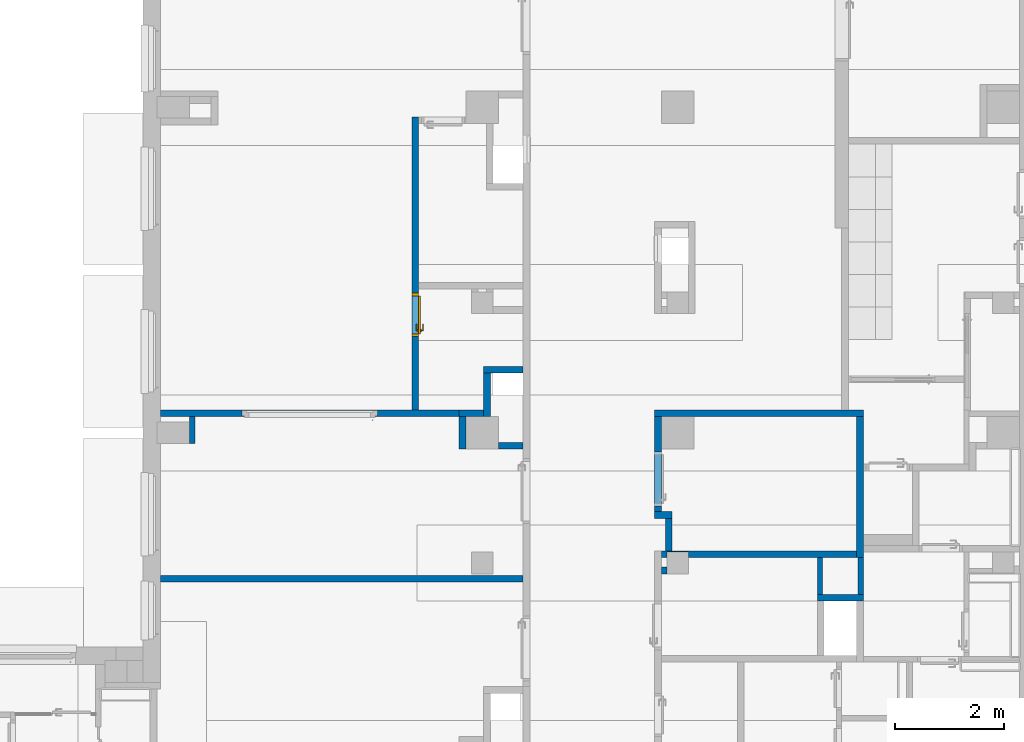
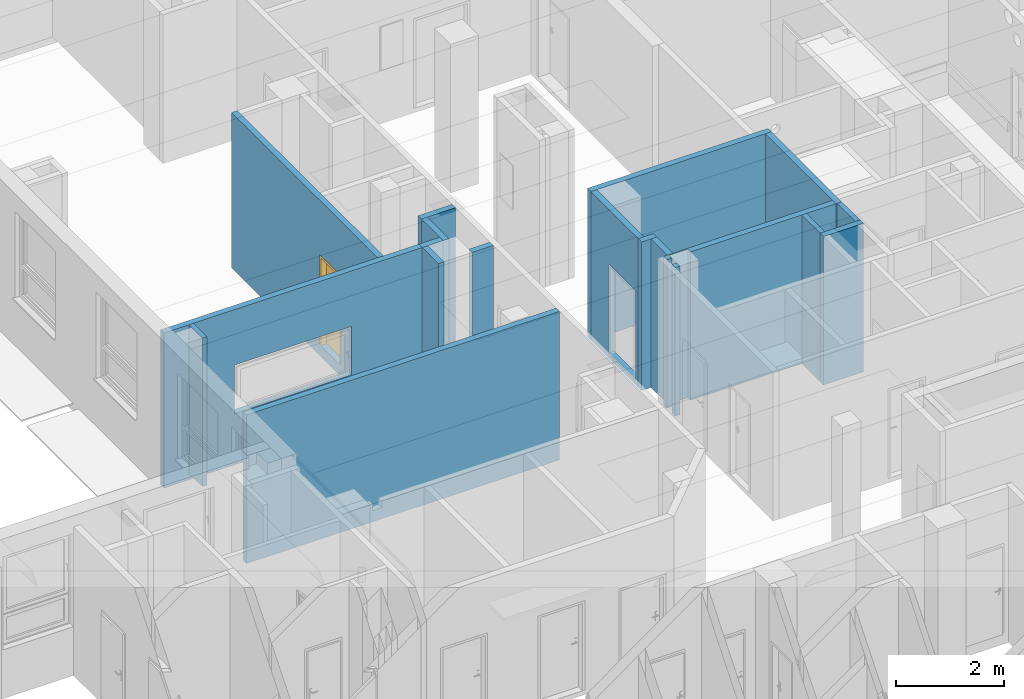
# One storey, part 44 of 140: 19 walls, 1 door, 3 openings.
"""IFC4 building model written with IfcOpenShell, lengths in metres."""

from ifc_helpers import new_model, entity, si_unit, converted_unit, derived_unit, frame, frame_2d, origin, origin_with_axes, place, context, subcontext, project, spatial, polyline, rectangle, outline, extrude, closed_shell, open_shell, surface_model, source, transform, mapped, material, layer, layer_set, layer_usage, type_object, element, fill, save


model = new_model("IFC4")

# Units and contexts
model_context = context("Model", 3, precision=1e-05, world=origin())
body_context = subcontext(model_context, "Body", "Model", "MODEL_VIEW")
ifc_project = project(units=[si_unit("LENGTHUNIT", "METRE"), si_unit("AREAUNIT", "SQUARE_METRE"), si_unit("VOLUMEUNIT", "CUBIC_METRE"), si_unit("MASSUNIT", "GRAM", prefix="KILO"), converted_unit("PLANEANGLEUNIT", "DEGREE", entity("IfcPlaneAngleMeasure", 0.0174532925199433), si_unit("PLANEANGLEUNIT", "RADIAN"), dimensions=[0, 0, 0, 0, 0, 0, 0]), derived_unit("THERMALTRANSMITTANCEUNIT", [(si_unit("POWERUNIT", "WATT"), 1), (si_unit("THERMODYNAMICTEMPERATUREUNIT", "KELVIN"), -1), (si_unit("LENGTHUNIT", "METRE"), -2)]), derived_unit("VOLUMETRICFLOWRATEUNIT", [(si_unit("LENGTHUNIT", "METRE"), 3), (converted_unit("TIMEUNIT", "hour", entity("IfcTimeMeasure", 3600.0), si_unit("TIMEUNIT", "SECOND"), dimensions=[0, 0, 1, 0, 0, 0, 0]), -1), (si_unit("LENGTHUNIT", "METRE"), -1)])], contexts=[model_context])

# Site, building, storey
site_placement = place(None, origin())
site = spatial("IfcSite", under=ifc_project, at=site_placement, Name="3. ASŘ", CompositionType="ELEMENT")
building_placement = place(site_placement, origin())
building = spatial("IfcBuilding", under=site, at=building_placement, Name="Pavilon C", CompositionType="ELEMENT")
storey_placement = place(building_placement, origin())
storey = spatial("IfcBuildingStorey", under=building, at=storey_placement, Name="Půdorys 1.NP", CompositionType="ELEMENT", Elevation=0.0)

# Walls
ifc_material_1 = material(Name="ZDIVO Z CDm")
ifc_layer_1 = layer(ifc_material_1, 0.125)
ifc_layer_set_1 = layer_set([ifc_layer_1])
ifc_layer_usage_1 = layer_usage(ifc_layer_set_1, "AXIS2", "POSITIVE", 0.0)
wall_1_placement = place(storey_placement, frame((24.82, 16.45, -0.1)))
element("IfcWall", 1, at=wall_1_placement, inside=storey, material=ifc_layer_usage_1, Name="ZDIVO Z CDm", context=body_context, shape_type="SweptSolid", body=[
    extrude(rectangle(XDim=6.68, YDim=0.125, at=frame_2d((3.34, 0.0625), x_axis=(1.0, 0.0))), origin_with_axes(), (0.0, 0.0, 1.0), 3.35),
])
ifc_material_2 = material(Name="ZDIVO Z CDm")
ifc_layer_2 = layer(ifc_material_2, 0.125)
ifc_layer_set_2 = layer_set([ifc_layer_2])
ifc_layer_usage_2 = layer_usage(ifc_layer_set_2, "AXIS2", "POSITIVE", 0.0)
wall_2_placement = place(storey_placement, frame((30.775, 20.3, -0.1)))
element("IfcWall", 2, at=wall_2_placement, inside=storey, material=ifc_layer_usage_2, Name="ZDIVO Z CDm", context=body_context, shape_type="SweptSolid", body=[
    extrude(rectangle(XDim=0.725, YDim=0.125, at=frame_2d((0.3625, 0.0625), x_axis=(1.0, 0.0))), origin_with_axes(), (0.0, 0.0, 1.0), 3.35),
])
ifc_material_3 = material(Name="ZDIVO Z CDm")
ifc_layer_3 = layer(ifc_material_3, 0.125)
ifc_layer_set_3 = layer_set([ifc_layer_3])
ifc_layer_usage_3 = layer_usage(ifc_layer_set_3, "AXIS2", "POSITIVE", 0.0)
wall_3_placement = place(storey_placement, frame((30.9, 19.5, -0.1), z_axis=(0.0, 0.0, 1.0), x_axis=(0.0, 1.0, 0.0)))
element("IfcWall", 3, at=wall_3_placement, inside=storey, material=ifc_layer_usage_3, Name="ZDIVO Z CDm", context=body_context, shape_type="SweptSolid", body=[
    extrude(rectangle(XDim=0.800000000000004, YDim=0.125, at=frame_2d((0.400000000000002, 0.0625), x_axis=(1.0, 0.0))), origin_with_axes(), (0.0, 0.0, 1.0), 3.35),
])
ifc_material_4 = material(Name="ZDIVO Z CDm")
ifc_layer_4 = layer(ifc_material_4, 0.125)
ifc_layer_set_4 = layer_set([ifc_layer_4])
ifc_layer_usage_4 = layer_usage(ifc_layer_set_4, "AXIS2", "POSITIVE", 0.0)
wall_4_placement = place(storey_placement, frame((30.325, 19.5, -0.1)))
element("IfcWall", 4, at=wall_4_placement, inside=storey, material=ifc_layer_usage_4, Name="ZDIVO Z CDm", context=body_context, shape_type="SweptSolid", body=[
    extrude(rectangle(XDim=0.449999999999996, YDim=0.125, at=frame_2d((0.224999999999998, 0.0625), x_axis=(1.0, 0.0))), origin_with_axes(), (0.0, 0.0, 1.0), 3.35),
])
ifc_material_5 = material(Name="ZDIVO Z CDm")
ifc_layer_5 = layer(ifc_material_5, 0.125)
ifc_layer_set_5 = layer_set([ifc_layer_5])
ifc_layer_usage_5 = layer_usage(ifc_layer_set_5, "AXIS2", "POSITIVE", 0.0)
wall_5_placement = place(storey_placement, frame((30.45, 18.9, -0.1), z_axis=(0.0, 0.0, 1.0), x_axis=(0.0, 1.0, 0.0)))
element("IfcWall", 5, at=wall_5_placement, inside=storey, material=ifc_layer_usage_5, Name="ZDIVO Z CDm", context=body_context, shape_type="SweptSolid", body=[
    extrude(rectangle(XDim=0.6, YDim=0.125, at=frame_2d((0.3, 0.0625), x_axis=(1.0, 0.0))), origin_with_axes(), (0.0, 0.0, 1.0), 3.35),
])
ifc_material_6 = material(Name="ZDIVO Z CDm")
ifc_layer_6 = layer(ifc_material_6, 0.125)
ifc_layer_set_6 = layer_set([ifc_layer_6])
ifc_layer_usage_6 = layer_usage(ifc_layer_set_6, "AXIS2", "POSITIVE", 0.0)
wall_6_placement = place(storey_placement, frame((36.925, 16.1, -0.1)))
element("IfcWall", 6, at=wall_6_placement, inside=storey, material=ifc_layer_usage_6, Name="ZDIVO Z CDm", context=body_context, shape_type="SweptSolid", body=[
    extrude(rectangle(XDim=0.85, YDim=0.125, at=frame_2d((0.425, 0.0625), x_axis=(1.0, 0.0))), origin_with_axes(), (0.0, 0.0, 1.0), 3.35),
])
ifc_material_7 = material(Name="YTONG 100")
ifc_layer_7 = layer(ifc_material_7, 0.1)
ifc_layer_set_7 = layer_set([ifc_layer_7])
ifc_layer_usage_7 = layer_usage(ifc_layer_set_7, "AXIS2", "POSITIVE", 0.0)
wall_7_placement = place(storey_placement, frame((37.775, 16.225, -0.1), z_axis=(0.0, 0.0, 1.0), x_axis=(0.0, 1.0, 0.0)))
element("IfcWall", 7, at=wall_7_placement, inside=storey, material=ifc_layer_usage_7, Name="YTONG 100", context=body_context, shape_type="SweptSolid", body=[
    extrude(rectangle(XDim=0.675, YDim=0.1, at=frame_2d((0.3375, 0.05), x_axis=(1.0, 0.0))), origin_with_axes(), (0.0, 0.0, 1.0), 3.35),
])
ifc_material_8 = material(Name="YTONG 100")
ifc_layer_8 = layer(ifc_material_8, 0.1)
ifc_layer_set_8 = layer_set([ifc_layer_8])
ifc_layer_usage_8 = layer_usage(ifc_layer_set_8, "AXIS2", "POSITIVE", 0.0)
wall_8_placement = place(storey_placement, frame((37.025, 16.225, -0.1), z_axis=(0.0, 0.0, 1.0), x_axis=(0.0, 1.0, 0.0)))
element("IfcWall", 8, at=wall_8_placement, inside=storey, material=ifc_layer_usage_8, Name="YTONG 100", context=body_context, shape_type="SweptSolid", body=[
    extrude(rectangle(XDim=0.675, YDim=0.1, at=frame_2d((0.3375, 0.05), x_axis=(1.0, 0.0))), origin_with_axes(), (0.0, 0.0, 1.0), 3.35),
])
ifc_material_9 = material(Name="ZDIVO Z CDm")
ifc_layer_9 = layer(ifc_material_9, 0.125)
ifc_layer_set_9 = layer_set([ifc_layer_9])
ifc_layer_usage_9 = layer_usage(ifc_layer_set_9, "AXIS2", "POSITIVE", 0.0)
wall_9_placement = place(storey_placement, frame((34.05, 16.6, -0.1)))
element("IfcWall", 9, at=wall_9_placement, inside=storey, material=ifc_layer_usage_9, Name="ZDIVO Z CDm", context=body_context, shape_type="SweptSolid", body=[
    extrude(rectangle(XDim=0.1, YDim=0.125, at=frame_2d((0.05, 0.0625), x_axis=(1.0, 0.0))), origin_with_axes(), (0.0, 0.0, 1.0), 3.35),
])
ifc_material_10 = material(Name="ZDIVO Z CDm")
ifc_layer_10 = layer(ifc_material_10, 0.125)
ifc_layer_set_10 = layer_set([ifc_layer_10])
ifc_layer_usage_10 = layer_usage(ifc_layer_set_10, "AXIS2", "POSITIVE", 0.0)
wall_10_placement = place(storey_placement, frame((37.775, 16.9, -0.1), z_axis=(0.0, 0.0, 1.0), x_axis=(0.0, 1.0, 0.0)))
element("IfcWall", 10, at=wall_10_placement, inside=storey, material=ifc_layer_usage_10, Name="ZDIVO Z CDm", context=body_context, shape_type="SweptSolid", body=[
    extrude(rectangle(XDim=2.6, YDim=0.125, at=frame_2d((1.3, 0.0625), x_axis=(1.0, 0.0))), origin_with_axes(), (0.0, 0.0, 1.0), 3.35),
])
ifc_material_11 = material(Name="ZDIVO Z CDm")
ifc_layer_11 = layer(ifc_material_11, 0.125)
ifc_layer_set_11 = layer_set([ifc_layer_11])
ifc_layer_usage_11 = layer_usage(ifc_layer_set_11, "AXIS2", "POSITIVE", 0.0)
wall_11_placement = place(storey_placement, frame((34.05, 16.9, -0.1)))
element("IfcWall", 11, at=wall_11_placement, inside=storey, material=ifc_layer_usage_11, Name="ZDIVO Z CDm", context=body_context, shape_type="SweptSolid", body=[
    extrude(outline(polyline([(0.5, 0.0), (3.6, 0.0), (3.6, 0.125), (0.0, 0.125), (0.0, 0.0), (0.1, 0.0), (0.1, 0.1), (0.5, 0.1), (0.5, 0.0)])), origin_with_axes(), (0.0, 0.0, 1.0), 3.35),
])

# Wall, opening
ifc_material_12 = material(Name="ZDIVO Z CDm")
ifc_layer_12 = layer(ifc_material_12, 0.125)
ifc_layer_set_12 = layer_set([ifc_layer_12])
ifc_layer_usage_12 = layer_usage(ifc_layer_set_12, "AXIS2", "POSITIVE", 0.0)
wall_12_placement = place(storey_placement, frame((34.05, 17.75, -0.1), z_axis=(0.0, 0.0, 1.0), x_axis=(0.0, 1.0, 0.0)))
wall_12 = element("IfcWall", 12, at=wall_12_placement, inside=storey, material=ifc_layer_usage_12, Name="ZDIVO Z CDm", context=body_context, shape_type="SweptSolid", body=[
    extrude(rectangle(XDim=1.75, YDim=0.125, at=frame_2d((0.875, 0.0625), x_axis=(1.0, 0.0))), origin_with_axes(), (0.0, 0.0, 1.0), 3.35),
])
opening_1_placement = place(wall_12_placement, frame((1.09999999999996, 0.125, 0.1), z_axis=(0.0, -1.0, 0.0), x_axis=(0.0, 0.0, 1.0)))
element("IfcOpeningElement", 13, at=opening_1_placement, cuts=wall_12, Name="Dveřní otvor", ObjectType="Opening", context=body_context, shape_type="SweptSolid", body=[
    extrude(outline(polyline([(0.0, 1.0), (2.02, 1.0), (2.02, 0.0), (0.0, 0.0), (0.0, 1.0)])), origin_with_axes(), (0.0, 0.0, 1.0), 0.125),
])

# Walls
ifc_material_13 = material(Name="ZDIVO Z CDm")
ifc_layer_13 = layer(ifc_material_13, 0.125)
ifc_layer_set_13 = layer_set([ifc_layer_13])
ifc_layer_usage_13 = layer_usage(ifc_layer_set_13, "AXIS2", "POSITIVE", 0.0)
wall_13_placement = place(storey_placement, frame((33.925, 17.625, -0.1)))
element("IfcWall", 14, at=wall_13_placement, inside=storey, material=ifc_layer_usage_13, Name="ZDIVO Z CDm", context=body_context, shape_type="SweptSolid", body=[
    extrude(rectangle(XDim=0.325, YDim=0.125, at=frame_2d((0.1625, 0.0625), x_axis=(1.0, 0.0))), origin_with_axes(), (0.0, 0.0, 1.0), 3.35),
])
ifc_material_14 = material(Name="ZDIVO Z CDm")
ifc_layer_14 = layer(ifc_material_14, 0.125)
ifc_layer_set_14 = layer_set([ifc_layer_14])
ifc_layer_usage_14 = layer_usage(ifc_layer_set_14, "AXIS2", "POSITIVE", 0.0)
wall_14_placement = place(storey_placement, frame((34.125, 17.625, -0.1), z_axis=(0.0, 0.0, 1.0), x_axis=(0.0, -1.0, 0.0)))
element("IfcWall", 15, at=wall_14_placement, inside=storey, material=ifc_layer_usage_14, Name="ZDIVO Z CDm", context=body_context, shape_type="SweptSolid", body=[
    extrude(rectangle(XDim=0.6, YDim=0.125, at=frame_2d((0.3, 0.0625), x_axis=(1.0, 0.0))), origin_with_axes(), (0.0, 0.0, 1.0), 3.35),
])
ifc_material_15 = material(Name="YTONG 100")
ifc_layer_15 = layer(ifc_material_15, 0.1)
ifc_layer_set_15 = layer_set([ifc_layer_15])
ifc_layer_usage_15 = layer_usage(ifc_layer_set_15, "AXIS2", "POSITIVE", 0.0)
wall_15_placement = place(storey_placement, frame((25.35, 19.5, -0.1), z_axis=(0.0, 0.0, 1.0), x_axis=(0.0, -1.0, 0.0)))
element("IfcWall", 16, at=wall_15_placement, inside=storey, material=ifc_layer_usage_15, Name="YTONG 100", context=body_context, shape_type="SweptSolid", body=[
    extrude(rectangle(XDim=0.5, YDim=0.1, at=frame_2d((0.25, 0.05), x_axis=(1.0, 0.0))), origin_with_axes(), (0.0, 0.0, 1.0), 3.35),
])
ifc_material_16 = material(Name="ZDIVO Z CDm")
ifc_layer_16 = layer(ifc_material_16, 0.125)
ifc_layer_set_16 = layer_set([ifc_layer_16])
ifc_layer_usage_16 = layer_usage(ifc_layer_set_16, "AXIS2", "POSITIVE", 0.0)
wall_16_placement = place(storey_placement, frame((31.05, 18.9, -0.1)))
element("IfcWall", 17, at=wall_16_placement, inside=storey, material=ifc_layer_usage_16, Name="ZDIVO Z CDm", context=body_context, shape_type="SweptSolid", body=[
    extrude(rectangle(XDim=0.449999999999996, YDim=0.125, at=frame_2d((0.224999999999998, 0.0625), x_axis=(1.0, 0.0))), origin_with_axes(), (0.0, 0.0, 1.0), 3.35),
])

# Wall, opening
ifc_material_17 = material(Name="YTONG 125")
ifc_layer_17 = layer(ifc_material_17, 0.125)
ifc_layer_set_17 = layer_set([ifc_layer_17])
ifc_layer_usage_17 = layer_usage(ifc_layer_set_17, "AXIS2", "POSITIVE", 0.0)
wall_17_placement = place(storey_placement, frame((30.325, 19.625, -0.25), z_axis=(0.0, 0.0, 1.0), x_axis=(-1.0, 0.0, 0.0)))
wall_17 = element("IfcWall", 18, at=wall_17_placement, inside=storey, material=ifc_layer_usage_17, Name="YTONG 125", context=body_context, shape_type="SweptSolid", body=[
    extrude(rectangle(XDim=5.505, YDim=0.125, at=frame_2d((2.7525, 0.0625), x_axis=(1.0, 0.0))), origin_with_axes(), (0.0, 0.0, 1.0), 3.5),
])
opening_2_placement = place(wall_17_placement, frame((1.505, 0.0, 1.15), z_axis=(0.0, 1.0, 0.0), x_axis=(0.0, 0.0, 1.0)))
element("IfcOpeningElement", 19, at=opening_2_placement, cuts=wall_17, Name="Okenní otvor", ObjectType="Opening", context=body_context, shape_type="SweptSolid", body=[
    extrude(outline(polyline([(0.0, 2.5), (1.1, 2.5), (1.1, 0.0), (0.0, 0.0), (0.0, 2.5)])), origin_with_axes(), (0.0, 0.0, 1.0), 0.125),
])

# Wall, opening, door
ifc_material_18 = material(Name="YTONG 125")
ifc_layer_18 = layer(ifc_material_18, 0.125)
ifc_layer_set_18 = layer_set([ifc_layer_18])
ifc_layer_usage_18 = layer_usage(ifc_layer_set_18, "AXIS2", "POSITIVE", 0.0)
wall_18_placement = place(storey_placement, frame((29.575, 19.625, -0.25), z_axis=(0.0, 0.0, 1.0), x_axis=(0.0, 1.0, 0.0)))
wall_18 = element("IfcWall", 20, at=wall_18_placement, inside=storey, material=ifc_layer_usage_18, Name="YTONG 125", context=body_context, shape_type="SweptSolid", body=[
    extrude(rectangle(XDim=5.4, YDim=0.125, at=frame_2d((2.7, 0.0625), x_axis=(1.0, 0.0))), origin_with_axes(), (0.0, 0.0, 1.0), 3.5),
])
opening_3_placement = place(wall_18_placement, frame((1.34999999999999, 0.0, 0.25), z_axis=(0.0, 1.0, 0.0), x_axis=(0.0, 0.0, 1.0)))
opening_3 = element("IfcOpeningElement", 21, at=opening_3_placement, cuts=wall_18, Name="Dveřní otvor", ObjectType="Opening", context=body_context, shape_type="SweptSolid", body=[
    extrude(outline(polyline([(0.0, 0.8), (2.02, 0.8), (2.02, 0.0), (0.0, 0.0), (0.0, 0.8)])), origin_with_axes(), (0.0, 0.0, 1.0), 0.125),
])
door_type = type_object("IfcDoorType", Name="D101", OperationType="NOTDEFINED", ParameterTakesPrecedence=False, PredefinedType="DOOR")
shared_shape = source(origin_with_axes(), body_context, "Body", "SurfaceModel", [
    surface_model("IfcShellBasedSurfaceModel", [(0.0, 0.125, 2.02), (0.0, 0.125, -7.65404249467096e-18), (0.05, 0.125, -7.65404249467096e-18), (0.05, 0.125, 2.02), (0.0, 0.0, 7.65404249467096e-18), (0.0, 2.41584530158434e-16, 2.02), (0.05, 2.41584530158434e-16, 2.02), (0.05, 0.0, 7.65404249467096e-18)], [closed_shell([[[0, 1, 2, 3]], [[4, 5, 6, 7]], [[1, 0, 5, 4]], [[2, 1, 4, 7]], [[3, 2, 7, 6]], [[0, 3, 6, 5]]], orient=[[False], [False], [False], [False], [False], [False]])]),
    surface_model("IfcShellBasedSurfaceModel", [(0.75, 0.125, 2.02), (0.75, 0.125, -7.65404249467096e-18), (0.8, 0.125, -7.65404249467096e-18), (0.8, 0.125, 2.02), (0.75, 0.0, 7.65404249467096e-18), (0.75, 2.41584530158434e-16, 2.02), (0.8, 2.41584530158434e-16, 2.02), (0.8, 0.0, 7.65404249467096e-18)], [closed_shell([[[0, 1, 2, 3]], [[4, 5, 6, 7]], [[1, 0, 5, 4]], [[2, 1, 4, 7]], [[3, 2, 7, 6]], [[0, 3, 6, 5]]], orient=[[False], [False], [False], [False], [False], [False]])]),
    surface_model("IfcShellBasedSurfaceModel", [(0.05, 0.125, 2.02), (0.05, 0.125, 1.97), (0.75, 0.125, 1.97), (0.75, 0.125, 2.02), (0.05, 2.41584530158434e-16, 1.97), (0.05, 2.41584530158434e-16, 2.02), (0.75, 2.41584530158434e-16, 2.02), (0.75, 2.41584530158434e-16, 1.97)], [closed_shell([[[0, 1, 2, 3]], [[4, 5, 6, 7]], [[1, 0, 5, 4]], [[2, 1, 4, 7]], [[3, 2, 7, 6]], [[0, 3, 6, 5]]], orient=[[False], [False], [False], [False], [False], [False]])]),
    surface_model("IfcShellBasedSurfaceModel", [(0.05, 0.165, 1.97), (0.05, 0.165, -1.25526296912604e-17), (0.75, 0.165, -1.25526296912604e-17), (0.75, 0.165, 1.97), (0.05, 0.125, -7.65404249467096e-18), (0.05, 0.125, 1.97), (0.75, 0.125, 1.97), (0.75, 0.125, -7.65404249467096e-18)], [closed_shell([[[0, 1, 2, 3]], [[4, 5, 6, 7]], [[1, 0, 5, 4]], [[2, 1, 4, 7]], [[3, 2, 7, 6]], [[0, 3, 6, 5]]], orient=[[False], [False], [False], [False], [False], [False]])]),
    surface_model("IfcShellBasedSurfaceModel", [(0.708815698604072, 0.125, 0.93625), (0.7125, 0.125, 0.95), (0.708815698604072, 0.125, 0.96375), (0.69875, 0.125, 0.973815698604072), (0.685, 0.125, 0.9775), (0.67125, 0.125, 0.973815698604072), (0.661184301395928, 0.125, 0.96375), (0.6575, 0.125, 0.95), (0.661184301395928, 0.125, 0.93625), (0.67125, 0.125, 0.926184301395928), (0.685, 0.125, 0.9225), (0.69875, 0.125, 0.926184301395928), (0.7125, 0.1125, 0.95), (0.708815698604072, 0.1125, 0.93625), (0.69875, 0.1125, 0.926184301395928), (0.685, 0.1125, 0.9225), (0.67125, 0.1125, 0.926184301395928), (0.661184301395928, 0.1125, 0.93625), (0.6575, 0.1125, 0.95), (0.661184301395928, 0.1125, 0.96375), (0.67125, 0.1125, 0.973815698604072), (0.685, 0.1125, 0.9775), (0.69875, 0.1125, 0.973815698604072), (0.708815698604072, 0.1125, 0.96375)], [closed_shell([[[0, 1, 2, 3, 4, 5, 6, 7, 8, 9, 10, 11]], [[12, 13, 14, 15, 16, 17, 18, 19, 20, 21, 22, 23]], [[1, 0, 13, 12]], [[2, 1, 12, 23]], [[3, 2, 23, 22]], [[4, 3, 22, 21]], [[5, 4, 21, 20]], [[6, 5, 20, 19]], [[7, 6, 19, 18]], [[8, 7, 18, 17]], [[9, 8, 17, 16]], [[10, 9, 16, 15]], [[11, 10, 15, 14]], [[0, 11, 14, 13]]], orient=[[False], [False], [False], [False], [False], [False], [False], [False], [False], [False], [False], [False], [False], [False]])]),
    surface_model("IfcShellBasedSurfaceModel", [(0.708815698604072, 0.125, 1.03625), (0.7125, 0.125, 1.05), (0.708815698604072, 0.125, 1.06375), (0.69875, 0.125, 1.07381569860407), (0.685, 0.125, 1.0775), (0.67125, 0.125, 1.07381569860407), (0.661184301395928, 0.125, 1.06375), (0.6575, 0.125, 1.05), (0.661184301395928, 0.125, 1.03625), (0.67125, 0.125, 1.02618430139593), (0.685, 0.125, 1.0225), (0.69875, 0.125, 1.02618430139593), (0.7125, 0.1125, 1.05), (0.708815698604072, 0.1125, 1.03625), (0.69875, 0.1125, 1.02618430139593), (0.685, 0.1125, 1.0225), (0.67125, 0.1125, 1.02618430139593), (0.661184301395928, 0.1125, 1.03625), (0.6575, 0.1125, 1.05), (0.661184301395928, 0.1125, 1.06375), (0.67125, 0.1125, 1.07381569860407), (0.685, 0.1125, 1.0775), (0.69875, 0.1125, 1.07381569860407), (0.708815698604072, 0.1125, 1.06375)], [closed_shell([[[0, 1, 2, 3, 4, 5, 6, 7, 8, 9, 10, 11]], [[12, 13, 14, 15, 16, 17, 18, 19, 20, 21, 22, 23]], [[1, 0, 13, 12]], [[2, 1, 12, 23]], [[3, 2, 23, 22]], [[4, 3, 22, 21]], [[5, 4, 21, 20]], [[6, 5, 20, 19]], [[7, 6, 19, 18]], [[8, 7, 18, 17]], [[9, 8, 17, 16]], [[10, 9, 16, 15]], [[11, 10, 15, 14]], [[0, 11, 14, 13]]], orient=[[False], [False], [False], [False], [False], [False], [False], [False], [False], [False], [False], [False], [False], [False]])]),
    surface_model("IfcShellBasedSurfaceModel", [(0.685, 0.125, 1.06), (0.68, 0.125, 1.05866025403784), (0.676339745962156, 0.125, 1.055), (0.675, 0.125, 1.05), (0.676339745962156, 0.125, 1.045), (0.68, 0.125, 1.04133974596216), (0.685, 0.125, 1.04), (0.69, 0.125, 1.04133974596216), (0.693660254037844, 0.125, 1.045), (0.695, 0.125, 1.05), (0.693660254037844, 0.125, 1.055), (0.69, 0.125, 1.05866025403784), (0.69, 0.0800000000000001, 1.05866025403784), (0.685, 0.0850000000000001, 1.06), (0.693660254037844, 0.0763397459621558, 1.055), (0.695, 0.0750000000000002, 1.05), (0.693660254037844, 0.0763397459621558, 1.045), (0.69, 0.0800000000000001, 1.04133974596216), (0.685, 0.0850000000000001, 1.04), (0.68, 0.0900000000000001, 1.04133974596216), (0.676339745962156, 0.0936602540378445, 1.045), (0.675, 0.0950000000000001, 1.05), (0.676339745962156, 0.0936602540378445, 1.055), (0.68, 0.0900000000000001, 1.05866025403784), (0.57, 0.0800000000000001, 1.05866025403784), (0.57, 0.0850000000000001, 1.06), (0.57, 0.0763397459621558, 1.055), (0.57, 0.0750000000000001, 1.05), (0.57, 0.0763397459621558, 1.045), (0.57, 0.0800000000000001, 1.04133974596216), (0.57, 0.0850000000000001, 1.04), (0.57, 0.0900000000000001, 1.04133974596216), (0.57, 0.0936602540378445, 1.045), (0.57, 0.0950000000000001, 1.05), (0.57, 0.0936602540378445, 1.055), (0.57, 0.0900000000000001, 1.05866025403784)], [open_shell([[[0, 1, 2, 3, 4, 5, 6, 7, 8, 9, 10, 11]], [[0, 11, 12, 13]], [[11, 10, 14, 12]], [[10, 9, 15, 14]], [[9, 8, 16, 15]], [[8, 7, 17, 16]], [[7, 6, 18, 17]], [[6, 5, 19, 18]], [[5, 4, 20, 19]], [[4, 3, 21, 20]], [[3, 2, 22, 21]], [[2, 1, 23, 22]], [[1, 0, 13, 23]], [[13, 12, 24, 25]], [[12, 14, 26, 24]], [[14, 15, 27, 26]], [[15, 16, 28, 27]], [[16, 17, 29, 28]], [[17, 18, 30, 29]], [[18, 19, 31, 30]], [[19, 20, 32, 31]], [[20, 21, 33, 32]], [[21, 22, 34, 33]], [[22, 23, 35, 34]], [[23, 13, 25, 35]]], orient=[[False], [False], [False], [False], [False], [False], [False], [False], [False], [False], [False], [False], [False], [False], [False], [False], [False], [False], [False], [False], [False], [False], [False], [False], [False]])]),
    surface_model("IfcShellBasedSurfaceModel", [(0.708815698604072, 0.165, 0.93625), (0.69875, 0.165, 0.926184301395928), (0.685, 0.165, 0.9225), (0.67125, 0.165, 0.926184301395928), (0.661184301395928, 0.165, 0.93625), (0.6575, 0.165, 0.95), (0.661184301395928, 0.165, 0.96375), (0.67125, 0.165, 0.973815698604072), (0.685, 0.165, 0.9775), (0.69875, 0.165, 0.973815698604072), (0.708815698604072, 0.165, 0.96375), (0.7125, 0.165, 0.95), (0.7125, 0.1775, 0.95), (0.708815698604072, 0.1775, 0.96375), (0.69875, 0.1775, 0.973815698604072), (0.685, 0.1775, 0.9775), (0.67125, 0.1775, 0.973815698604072), (0.661184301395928, 0.1775, 0.96375), (0.6575, 0.1775, 0.95), (0.661184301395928, 0.1775, 0.93625), (0.67125, 0.1775, 0.926184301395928), (0.685, 0.1775, 0.9225), (0.69875, 0.1775, 0.926184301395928), (0.708815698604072, 0.1775, 0.93625)], [closed_shell([[[0, 1, 2, 3, 4, 5, 6, 7, 8, 9, 10, 11]], [[12, 13, 14, 15, 16, 17, 18, 19, 20, 21, 22, 23]], [[11, 12, 23, 0]], [[10, 13, 12, 11]], [[9, 14, 13, 10]], [[8, 15, 14, 9]], [[7, 16, 15, 8]], [[6, 17, 16, 7]], [[5, 18, 17, 6]], [[4, 19, 18, 5]], [[3, 20, 19, 4]], [[2, 21, 20, 3]], [[1, 22, 21, 2]], [[0, 23, 22, 1]]], orient=[[False], [False], [False], [False], [False], [False], [False], [False], [False], [False], [False], [False], [False], [False]])]),
    surface_model("IfcShellBasedSurfaceModel", [(0.708815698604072, 0.165, 1.03625), (0.69875, 0.165, 1.02618430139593), (0.685, 0.165, 1.0225), (0.67125, 0.165, 1.02618430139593), (0.661184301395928, 0.165, 1.03625), (0.6575, 0.165, 1.05), (0.661184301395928, 0.165, 1.06375), (0.67125, 0.165, 1.07381569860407), (0.685, 0.165, 1.0775), (0.69875, 0.165, 1.07381569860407), (0.708815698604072, 0.165, 1.06375), (0.7125, 0.165, 1.05), (0.7125, 0.1775, 1.05), (0.708815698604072, 0.1775, 1.06375), (0.69875, 0.1775, 1.07381569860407), (0.685, 0.1775, 1.0775), (0.67125, 0.1775, 1.07381569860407), (0.661184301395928, 0.1775, 1.06375), (0.6575, 0.1775, 1.05), (0.661184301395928, 0.1775, 1.03625), (0.67125, 0.1775, 1.02618430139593), (0.685, 0.1775, 1.0225), (0.69875, 0.1775, 1.02618430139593), (0.708815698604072, 0.1775, 1.03625)], [closed_shell([[[0, 1, 2, 3, 4, 5, 6, 7, 8, 9, 10, 11]], [[12, 13, 14, 15, 16, 17, 18, 19, 20, 21, 22, 23]], [[11, 12, 23, 0]], [[10, 13, 12, 11]], [[9, 14, 13, 10]], [[8, 15, 14, 9]], [[7, 16, 15, 8]], [[6, 17, 16, 7]], [[5, 18, 17, 6]], [[4, 19, 18, 5]], [[3, 20, 19, 4]], [[2, 21, 20, 3]], [[1, 22, 21, 2]], [[0, 23, 22, 1]]], orient=[[False], [False], [False], [False], [False], [False], [False], [False], [False], [False], [False], [False], [False], [False]])]),
    surface_model("IfcShellBasedSurfaceModel", [(0.685, 0.165, 1.06), (0.69, 0.165, 1.05866025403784), (0.693660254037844, 0.165, 1.055), (0.695, 0.165, 1.05), (0.693660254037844, 0.165, 1.045), (0.69, 0.165, 1.04133974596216), (0.685, 0.165, 1.04), (0.68, 0.165, 1.04133974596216), (0.676339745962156, 0.165, 1.045), (0.675, 0.165, 1.05), (0.676339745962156, 0.165, 1.055), (0.68, 0.165, 1.05866025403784), (0.685, 0.205, 1.06), (0.69, 0.21, 1.05866025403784), (0.693660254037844, 0.213660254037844, 1.055), (0.695, 0.215, 1.05), (0.693660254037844, 0.213660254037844, 1.045), (0.69, 0.21, 1.04133974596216), (0.685, 0.205, 1.04), (0.68, 0.2, 1.04133974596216), (0.676339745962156, 0.196339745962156, 1.045), (0.675, 0.195, 1.05), (0.676339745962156, 0.196339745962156, 1.055), (0.68, 0.2, 1.05866025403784), (0.57, 0.205, 1.06), (0.57, 0.21, 1.05866025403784), (0.57, 0.213660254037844, 1.055), (0.57, 0.215, 1.05), (0.57, 0.213660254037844, 1.045), (0.57, 0.21, 1.04133974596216), (0.57, 0.205, 1.04), (0.57, 0.2, 1.04133974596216), (0.57, 0.196339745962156, 1.045), (0.57, 0.195, 1.05), (0.57, 0.196339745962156, 1.055), (0.57, 0.2, 1.05866025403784)], [open_shell([[[0, 1, 2, 3, 4, 5, 6, 7, 8, 9, 10, 11]], [[0, 12, 13, 1]], [[1, 13, 14, 2]], [[2, 14, 15, 3]], [[3, 15, 16, 4]], [[4, 16, 17, 5]], [[5, 17, 18, 6]], [[6, 18, 19, 7]], [[7, 19, 20, 8]], [[8, 20, 21, 9]], [[9, 21, 22, 10]], [[10, 22, 23, 11]], [[11, 23, 12, 0]], [[12, 24, 25, 13]], [[13, 25, 26, 14]], [[14, 26, 27, 15]], [[15, 27, 28, 16]], [[16, 28, 29, 17]], [[17, 29, 30, 18]], [[18, 30, 31, 19]], [[19, 31, 32, 20]], [[20, 32, 33, 21]], [[21, 33, 34, 22]], [[22, 34, 35, 23]], [[23, 35, 24, 12]]], orient=[[False], [False], [False], [False], [False], [False], [False], [False], [False], [False], [False], [False], [False], [False], [False], [False], [False], [False], [False], [False], [False], [False], [False], [False], [False]])]),
])
door_placement = place(opening_3_placement, frame((0.0, 0.799999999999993, 0.125000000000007), z_axis=(1.0, 0.0, 0.0), x_axis=(0.0, -1.0, 2.44929359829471e-16)))
door = element("IfcDoor", 22, at=door_placement, inside=storey, type_object=door_type, Name="D101", OverallHeight=2.02, OverallWidth=0.8, context=body_context, shape_type="MappedRepresentation", body=[
    mapped(shared_shape, transform((0.0, 0.0, 0.0), x_axis=(1.0, 0.0, 0.0), y_axis=(0.0, 1.0, 0.0), z_axis=(0.0, 0.0, 1.0), scale=1.0)),
])
fill(opening_3, door)

# Wall
ifc_material_19 = material(Name="ZDIVO Z CDm")
ifc_layer_19 = layer(ifc_material_19, 0.125)
ifc_layer_set_19 = layer_set([ifc_layer_19])
ifc_layer_usage_19 = layer_usage(ifc_layer_set_19, "AXIS2", "POSITIVE", 0.0)
wall_19_placement = place(storey_placement, frame((37.775, 19.625, -0.1), z_axis=(0.0, 0.0, 1.0), x_axis=(-1.0, 0.0, 0.0)))
element("IfcWall", 23, at=wall_19_placement, inside=storey, material=ifc_layer_usage_19, Name="ZDIVO Z CDm", context=body_context, shape_type="SweptSolid", body=[
    extrude(rectangle(XDim=3.85, YDim=0.125, at=frame_2d((1.925, 0.0625), x_axis=(1.0, 0.0))), origin_with_axes(), (0.0, 0.0, 1.0), 3.35),
])

save(model, "model.ifc")
